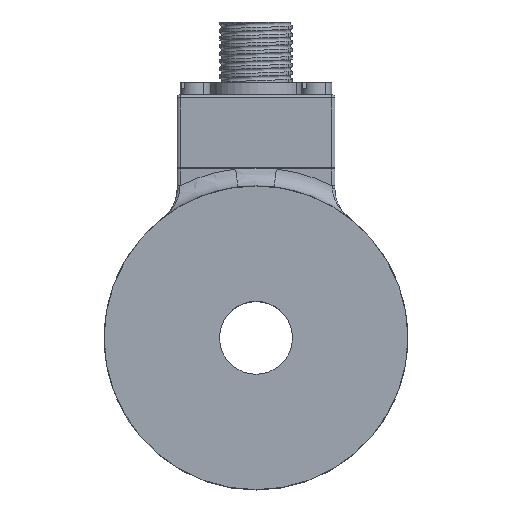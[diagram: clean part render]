
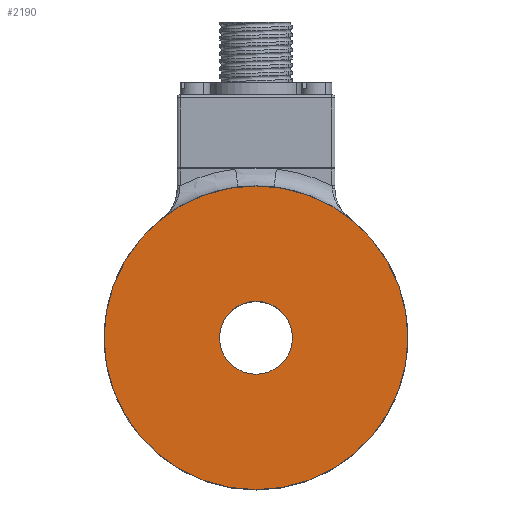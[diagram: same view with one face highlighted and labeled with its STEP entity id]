
A CAD part, top view. The second image highlights one B-rep face of the part: STEP entity #2190.
In plain terms, the highlighted planar face has unit normal (0, 0, 1).
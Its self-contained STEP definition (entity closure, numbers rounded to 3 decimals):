
#555 = CARTESIAN_POINT ( 'NONE',  ( 19., -40., -9.5 ) ) ;
#2190 = ADVANCED_FACE ( 'NONE', ( #16836, #2857 ), #13781, .F. ) ;
#2471 = DIRECTION ( 'NONE',  ( 1., 0., 0. ) ) ;
#2857 = FACE_BOUND ( 'NONE', #11313, .T. ) ;
#3675 = CARTESIAN_POINT ( 'NONE',  ( 13., -40., -9.5 ) ) ;
#4177 = AXIS2_PLACEMENT_3D ( 'NONE', #11517, #7207, #8562 ) ;
#4586 = VERTEX_POINT ( 'NONE', #16624 ) ;
#7207 = DIRECTION ( 'NONE',  ( 0., 0., -1. ) ) ;
#7635 = DIRECTION ( 'NONE',  ( 0., 0., 1. ) ) ;
#7730 = CARTESIAN_POINT ( 'NONE',  ( 13., -40., -9.5 ) ) ;
#7757 = DIRECTION ( 'NONE',  ( 0., 1., 0. ) ) ;
#7805 = ORIENTED_EDGE ( 'NONE', *, *, #17166, .F. ) ;
#7851 = DIRECTION ( 'NONE',  ( 0., 0., -1. ) ) ;
#8141 = CARTESIAN_POINT ( 'NONE',  ( 13., -40., -9.5 ) ) ;
#8326 = ORIENTED_EDGE ( 'NONE', *, *, #11318, .F. ) ;
#8552 = CARTESIAN_POINT ( 'NONE',  ( 13., -40., -9.5 ) ) ;
#8562 = DIRECTION ( 'NONE',  ( 1., 0., 0. ) ) ;
#8887 = CARTESIAN_POINT ( 'NONE',  ( 13., -65., -9.5 ) ) ;
#8934 = VERTEX_POINT ( 'NONE', #10446 ) ;
#9029 = DIRECTION ( 'NONE',  ( 1., 0., 0. ) ) ;
#9792 = AXIS2_PLACEMENT_3D ( 'NONE', #8552, #14319, #14149 ) ;
#9875 = ORIENTED_EDGE ( 'NONE', *, *, #17472, .F. ) ;
#10446 = CARTESIAN_POINT ( 'NONE',  ( 7., -40., -9.5 ) ) ;
#10630 = VERTEX_POINT ( 'NONE', #8887 ) ;
#11182 = AXIS2_PLACEMENT_3D ( 'NONE', #3675, #15175, #2471 ) ;
#11313 = EDGE_LOOP ( 'NONE', ( #9875, #7805 ) ) ;
#11318 = EDGE_CURVE ( 'NONE', #4586, #10630, #13107, .T. ) ;
#11517 = CARTESIAN_POINT ( 'NONE',  ( 13., -40., -9.5 ) ) ;
#11642 = EDGE_CURVE ( 'NONE', #10630, #4586, #12943, .T. ) ;
#12943 = CIRCLE ( 'NONE', #12998, 25. ) ;
#12987 = CIRCLE ( 'NONE', #11182, 6. ) ;
#12998 = AXIS2_PLACEMENT_3D ( 'NONE', #8141, #7851, #7757 ) ;
#13107 = CIRCLE ( 'NONE', #9792, 25. ) ;
#13781 = PLANE ( 'NONE',  #4177 ) ;
#14149 = DIRECTION ( 'NONE',  ( 0., 1., 0. ) ) ;
#14319 = DIRECTION ( 'NONE',  ( 0., 0., -1. ) ) ;
#14635 = ORIENTED_EDGE ( 'NONE', *, *, #11642, .F. ) ;
#15175 = DIRECTION ( 'NONE',  ( 0., 0., 1. ) ) ;
#16529 = AXIS2_PLACEMENT_3D ( 'NONE', #7730, #7635, #9029 ) ;
#16624 = CARTESIAN_POINT ( 'NONE',  ( 13., -15., -9.5 ) ) ;
#16816 = CIRCLE ( 'NONE', #16529, 6. ) ;
#16836 = FACE_OUTER_BOUND ( 'NONE', #18038, .T. ) ;
#17166 = EDGE_CURVE ( 'NONE', #8934, #17772, #16816, .T. ) ;
#17472 = EDGE_CURVE ( 'NONE', #17772, #8934, #12987, .T. ) ;
#17772 = VERTEX_POINT ( 'NONE', #555 ) ;
#18038 = EDGE_LOOP ( 'NONE', ( #14635, #8326 ) ) ;
